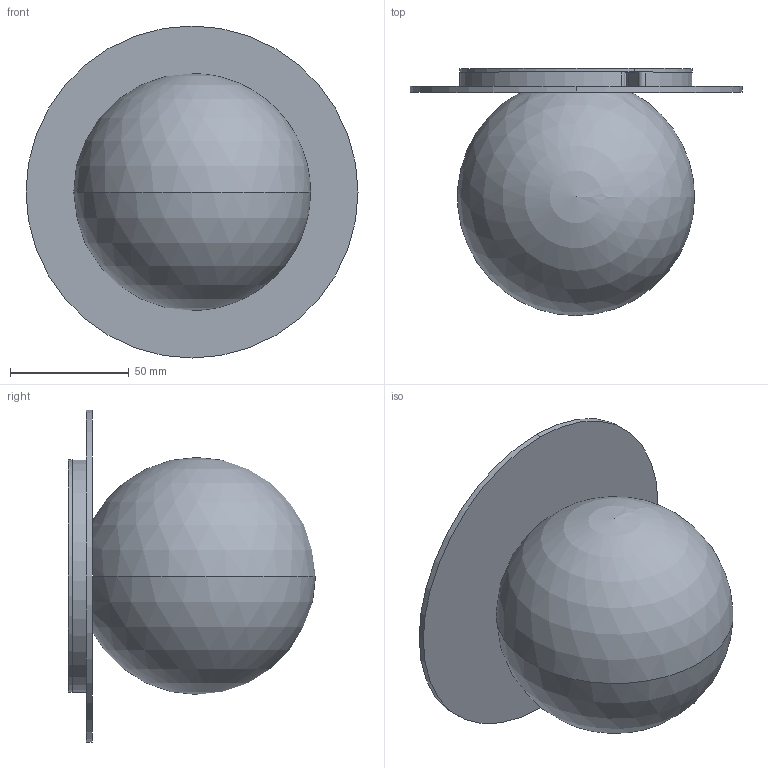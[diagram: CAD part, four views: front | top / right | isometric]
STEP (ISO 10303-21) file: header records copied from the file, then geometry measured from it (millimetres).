
FILE_DESCRIPTION (( 'STEP AP203' ), '1' );
FILE_NAME ('LTKI1001XXXXXXX-PER 3D.STEP', '2025-06-25T07:20:00', ( '' ), ( '' ), 'SwSTEP 2.0', 'SolidWorks 2024', '' );
FILE_SCHEMA (( 'CONFIG_CONTROL_DESIGN' ));
Length unit declared in the file: millimetre
Products named in the file (5): LTKI1001XXXXXXX-PER 3D; WSCM2C0201-0700-02_WSCM2C0201-0700-02; WSCM2C0215-0100-01; WSCM2C0216-0100-02; WSVAXXX0100BC7XX00
Assembly tree (4 placements, depth 2):
  LTKI1001XXXXXXX-PER 3D
    WSCM2C0201-0700-02_WSCM2C0201-0700-02
    WSVAXXX0100BC7XX00
    WSCM2C0215-0100-01
    WSCM2C0216-0100-02
Bounding box: 140 x 104.16 x 140 mm (x, y, z)
Volume: 196807.9 mm3; surface area: 119310 mm2
Topology: 4 solids, 4 shells, 110 faces, 302 edges, 196 vertices
Faces by surface type: cylinder 64, plane 28, cone 14, sphere 4
Entity records: 4051 total; most frequent: DIRECTION 674, CARTESIAN_POINT 599, ORIENTED_EDGE 584, EDGE_CURVE 292, AXIS2_PLACEMENT_3D 265, VERTEX_POINT 190, CIRCLE 148, LINE 144
